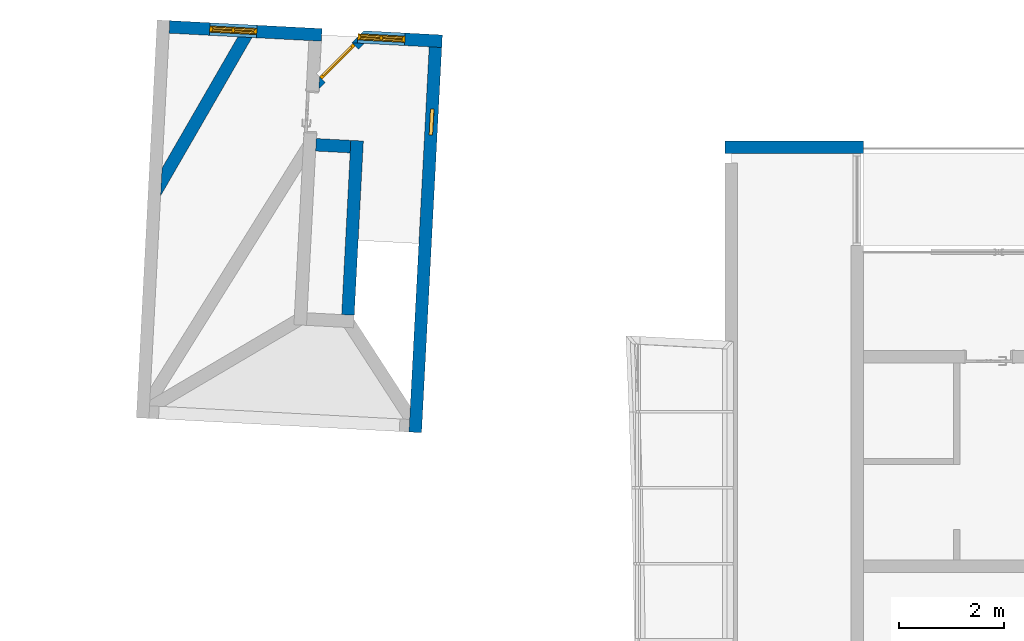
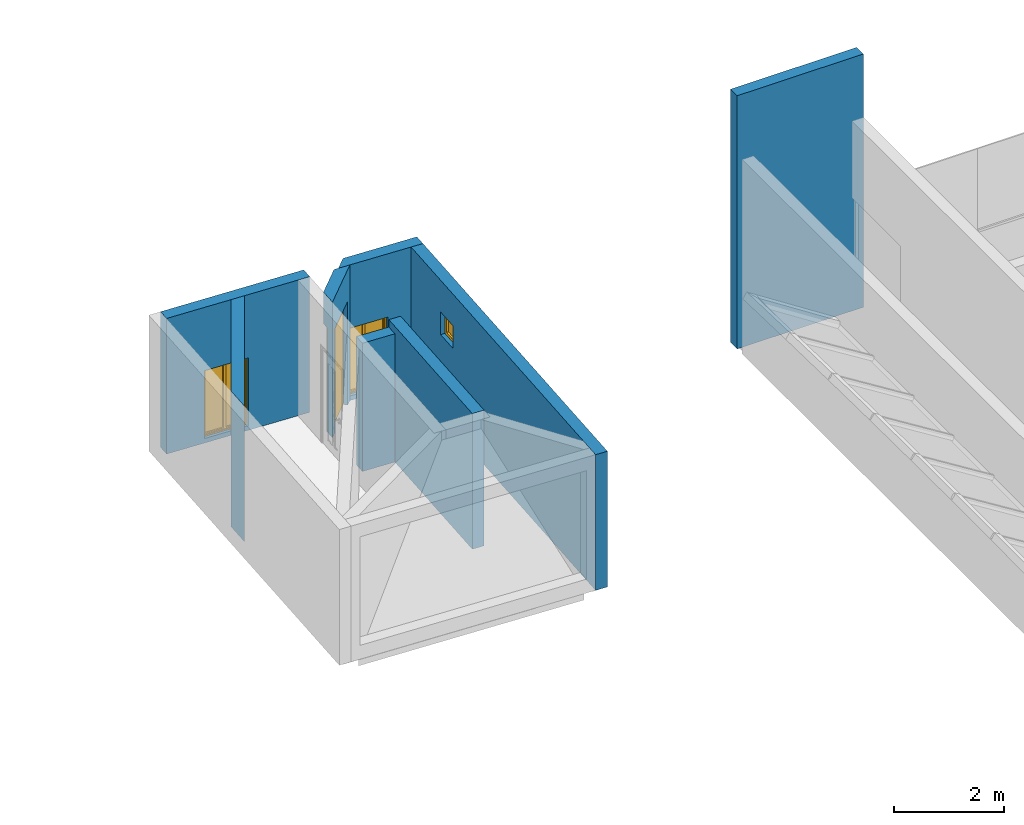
# One storey, part 28 of 33: 8 walls, 4 windows, 7 openings.
"""IFC2X3 building model written with IfcOpenShell, lengths in millimetres."""

from ifc_helpers import new_model, entity, si_unit, converted_unit, derived_unit, direction, frame, frame_2d, origin, place, context, subcontext, project, spatial, polyline, rectangle, outline, extrude, source, transform, mapped, material, material_list, layer, layer_set, layer_usage, type_object, type_shapes, element, fill, save


model = new_model("IFC2X3")

# Units and contexts
model_context = context("Model", 3, precision=0.01, world=origin(), true_north=direction((6.12303176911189e-17, 1.0)))
body_context = subcontext(model_context, "Body", "Model", "MODEL_VIEW")
ifc_project = project(units=[si_unit("LENGTHUNIT", "METRE", prefix="MILLI"), si_unit("AREAUNIT", "SQUARE_METRE"), si_unit("VOLUMEUNIT", "CUBIC_METRE"), converted_unit("PLANEANGLEUNIT", "DEGREE", entity("IfcRatioMeasure", 0.0174532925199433), si_unit("PLANEANGLEUNIT", "RADIAN"), dimensions=[0, 0, 0, 0, 0, 0, 0]), si_unit("MASSUNIT", "GRAM", prefix="KILO"), derived_unit("MASSDENSITYUNIT", [(si_unit("MASSUNIT", "GRAM", prefix="KILO"), 1), (si_unit("LENGTHUNIT", "METRE"), -3)]), si_unit("TIMEUNIT", "SECOND"), si_unit("FREQUENCYUNIT", "HERTZ"), si_unit("THERMODYNAMICTEMPERATUREUNIT", "DEGREE_CELSIUS"), derived_unit("THERMALTRANSMITTANCEUNIT", [(si_unit("MASSUNIT", "GRAM", prefix="KILO"), 1), (si_unit("THERMODYNAMICTEMPERATUREUNIT", "KELVIN"), -1), (si_unit("TIMEUNIT", "SECOND"), -3)]), derived_unit("VOLUMETRICFLOWRATEUNIT", [(si_unit("LENGTHUNIT", "METRE"), 3), (si_unit("TIMEUNIT", "SECOND"), -1)]), si_unit("ELECTRICCURRENTUNIT", "AMPERE"), si_unit("ELECTRICVOLTAGEUNIT", "VOLT"), si_unit("POWERUNIT", "WATT"), si_unit("FORCEUNIT", "NEWTON", prefix="KILO"), si_unit("ILLUMINANCEUNIT", "LUX"), si_unit("LUMINOUSFLUXUNIT", "LUMEN"), si_unit("LUMINOUSINTENSITYUNIT", "CANDELA"), derived_unit("USERDEFINED", [(si_unit("MASSUNIT", "GRAM", prefix="KILO"), -1), (si_unit("LENGTHUNIT", "METRE"), -2), (si_unit("TIMEUNIT", "SECOND"), 3), (si_unit("LUMINOUSFLUXUNIT", "LUMEN"), 1)]), derived_unit("LINEARVELOCITYUNIT", [(si_unit("LENGTHUNIT", "METRE"), 1), (si_unit("TIMEUNIT", "SECOND"), -1)]), si_unit("PRESSUREUNIT", "PASCAL"), derived_unit("USERDEFINED", [(si_unit("LENGTHUNIT", "METRE"), -2), (si_unit("MASSUNIT", "GRAM", prefix="KILO"), 1), (si_unit("TIMEUNIT", "SECOND"), -2)])], contexts=[model_context])

# Site, building, storey
site_placement = place(None, origin())
site = spatial("IfcSite", under=ifc_project, at=site_placement, Name="表面", CompositionType="ELEMENT")
building_placement = place(site_placement, origin())
building = spatial("IfcBuilding", under=site, at=building_placement, CompositionType="ELEMENT")
storey_placement = place(building_placement, frame((0.0, 0.0, 6000.0)))
storey = spatial("IfcBuildingStorey", under=building, at=storey_placement, Name="3F", CompositionType="ELEMENT", Elevation=6000.00000000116)

# Wall, openings, window
ifc_material_1 = material(Name="白色涂料")
ifc_layer_1 = layer(ifc_material_1, 10.0)
ifc_material_2 = material(Name="默认墙")
ifc_layer_2 = layer(ifc_material_2, 220.0)
ifc_layer_3 = layer(ifc_material_1, 10.0)
ifc_layer_set = layer_set([ifc_layer_1, ifc_layer_2, ifc_layer_3], Name="基本墙:粉刷墙240")
ifc_layer_usage_1 = layer_usage(ifc_layer_set, "AXIS2", "NEGATIVE", 120.0)
wall_type = type_object("IfcWallType", Name="基本墙:粉刷墙240", PredefinedType="STANDARD", material=ifc_layer_set)
wall_1_placement = place(storey_placement, frame((-25153.9962677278, 7975.13387011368, 0.0), z_axis=(0.0, 0.0, 1.0), x_axis=(0.998629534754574, -0.0523359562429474, 0.0)))
wall_1 = element("IfcWallStandardCase", 1, at=wall_1_placement, inside=storey, type_object=wall_type, material=ifc_layer_usage_1, Name="基本墙:粉刷墙240", ObjectType="基本墙:粉刷墙240", context=body_context, shape_type="SweptSolid", body=[
    extrude(rectangle(XDim=2910.00000000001, YDim=239.999999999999, at=frame_2d((1455.0, -1.20792265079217e-13), x_axis=(-1.0, 0.0))), origin(), (0.0, 0.0, 1.0), 3000.0),
])
opening_1_placement = place(wall_1_placement, origin())
element("IfcOpeningElement", 2, at=opening_1_placement, cuts=wall_1, Name="基本墙:粉刷墙240", ObjectType="Opening", context=body_context, shape_type="SweptSolid", body=[
    extrude(rectangle(XDim=2300.0, YDim=239.999999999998, at=frame_2d((2.67874611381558e-12, 0.0), x_axis=(0.0, 1.0))), frame((2933.23510215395, -820.921302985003, 1150.0), z_axis=(0.669130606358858, 0.743144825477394, 0.0), x_axis=(-0.743144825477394, 0.669130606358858, 0.0)), (0.0, 0.0, 1.0), 900.000000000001),
])
opening_2_placement = place(wall_1_placement, origin())
element("IfcOpeningElement", 3, at=opening_2_placement, cuts=wall_1, Name="基本墙:粉刷墙240", ObjectType="Opening", context=body_context, shape_type="SweptSolid", body=[
    extrude(rectangle(XDim=499.999999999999, YDim=239.999999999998, at=frame_2d((2.67874611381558e-12, 0.0), x_axis=(0.0, 1.0))), frame((2975.85677289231, -513.844093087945, 1164.06631961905), z_axis=(0.669130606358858, 0.743144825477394, 0.0), x_axis=(0.743144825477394, -0.669130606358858, 0.0)), (0.0, 0.0, 1.0), 500.000000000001),
])
opening_3_placement = place(wall_1_placement, frame((1670.0, 120.0, 100.0)))
opening_3 = element("IfcOpeningElement", 4, at=opening_3_placement, cuts=wall_1, Name="C0915:C0915:1", ObjectType="Opening", context=body_context, shape_type="SweptSolid", body=[
    extrude(rectangle(XDim=1500.0, YDim=900.0, at=frame_2d((750.0, 450.000000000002), x_axis=(1.0, 0.0))), frame((0.0, 0.0, 0.0), z_axis=(0.0, -1.0, 0.0), x_axis=(0.0, 0.0, 1.0)), (0.0, 0.0, 1.0), 240.0),
])
ifc_material_3 = material(Name="玻璃")
ifc_material_4 = material(Name="竖梃")
ifc_material_list_1 = material_list([ifc_material_3, ifc_material_4])
ifc_material_list_2 = material_list([ifc_material_3, ifc_material_4])
window_style_1 = type_object("IfcWindowStyle", Name="C0915", ConstructionType="NOTDEFINED", OperationType="NOTDEFINED", ParameterTakesPrecedence=False, Sizeable=False, material=ifc_material_list_2)
shared_shape_1 = source(origin(), body_context, "Body", "SweptSolid", [
    extrude(rectangle(XDim=20.0, YDim=375.0, at=frame_2d((-8.88178419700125e-16, 0.0), x_axis=(1.0, 0.0))), frame((662.5, 120.0, 50.0), z_axis=(0.0, 0.0, 1.0), x_axis=(0.0, -1.0, 0.0)), (0.0, 0.0, 1.0), 1400.0),
    extrude(rectangle(XDim=374.999999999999, YDim=20.0, at=frame_2d((4.2632564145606e-14, 0.0), x_axis=(1.0, 0.0))), frame((237.5, 120.0, 50.0), z_axis=(0.0, 0.0, 1.0), x_axis=(-1.0, 0.0, 0.0)), (0.0, 0.0, 1.0), 1400.0),
    extrude(outline(polyline([(-725.0, -212.5), (725.0, -212.5), (725.0, 212.5), (-725.0, 212.5), (-725.0, -212.5)]), holes=[polyline([(700.0, -187.5), (-700.0, -187.5), (-700.0, 187.5), (700.0, 187.499999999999), (700.0, -187.5)])]), frame((662.5, 80.0, 750.0), z_axis=(0.0, 1.0, 0.0), x_axis=(0.0, 0.0, 1.0)), (0.0, 0.0, 1.0), 80.0),
    extrude(outline(polyline([(-725.0, -212.499999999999), (725.0, -212.499999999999), (725.0, 212.499999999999), (-725.0, 212.5), (-725.0, -212.499999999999)]), holes=[polyline([(700.0, -187.499999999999), (-700.0, -187.499999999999), (-700.0, 187.499999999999), (700.0, 187.499999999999), (700.0, -187.499999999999)])]), frame((237.5, 80.0, 750.0), z_axis=(0.0, 1.0, 0.0), x_axis=(0.0, 0.0, -1.0)), (0.0, 0.0, 1.0), 80.0),
    extrude(outline(polyline([(-750.0, -450.0), (750.0, -450.0), (750.0, 450.0), (-750.0, 450.0), (-750.0, -450.0)]), holes=[polyline([(725.0, -425.0), (-725.0, -425.0), (-725.0, 425.0), (725.0, 425.0), (725.0, -425.0)])]), frame((450.0, 60.0, 750.0), z_axis=(0.0, 1.0, 0.0), x_axis=(0.0, 0.0, -1.0)), (0.0, 0.0, 1.0), 120.0),
])
type_shapes(window_style_1, [shared_shape_1])
window_1_placement = place(opening_3_placement, frame((0.0, 0.0, 0.0), z_axis=(0.0, 0.0, 1.0), x_axis=(-1.0, 0.0, 0.0)))
window_1 = element("IfcWindow", 5, at=window_1_placement, inside=storey, type_object=window_style_1, material=ifc_material_list_1, Name="C0915:C0915", ObjectType="C0915", OverallHeight=1500.0, OverallWidth=899.999999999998, context=body_context, shape_type="MappedRepresentation", body=[
    mapped(shared_shape_1, transform((0.0, 0.0, 0.0), scale=1.0)),
])
fill(opening_3, window_1)

# Walls
ifc_layer_usage_2 = layer_usage(ifc_layer_set, "AXIS2", "NEGATIVE", 120.0)
wall_2_placement = place(storey_placement, frame((-21746.9572121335, 2479.29136203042, 0.0), z_axis=(0.0, 0.0, 1.0), x_axis=(0.0523359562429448, 0.998629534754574, 0.0)))
element("IfcWallStandardCase", 6, at=wall_2_placement, inside=storey, type_object=wall_type, material=ifc_layer_usage_2, Name="基本墙:粉刷墙240", ObjectType="基本墙:粉刷墙240", context=body_context, shape_type="SweptSolid", body=[
    extrude(rectangle(XDim=3330.0, YDim=239.999999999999, at=frame_2d((1665.0, -1.13686837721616e-13), x_axis=(-1.0, 0.0))), origin(), (0.0, 0.0, 1.0), 3000.0),
])
ifc_layer_usage_3 = layer_usage(ifc_layer_set, "AXIS2", "NEGATIVE", 120.0)
wall_3_placement = place(storey_placement, frame((-21698.7943367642, 5691.17248334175, 0.0), z_axis=(0.0, 0.0, 1.0), x_axis=(-0.998629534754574, 0.0523359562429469, 0.0)))
element("IfcWallStandardCase", 7, at=wall_3_placement, inside=storey, type_object=wall_type, material=ifc_layer_usage_3, Name="基本墙:粉刷墙240", ObjectType="基本墙:粉刷墙240", context=body_context, shape_type="SweptSolid", body=[
    extrude(rectangle(XDim=659.999999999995, YDim=239.999999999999, at=frame_2d((329.999999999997, -2.41584530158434e-13), x_axis=(-1.0, 0.0))), origin(), (0.0, 0.0, 1.0), 2836.39062444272),
])
ifc_layer_usage_4 = layer_usage(ifc_layer_set, "AXIS2", "NEGATIVE", 120.0)
wall_4_placement = place(storey_placement, frame((-23682.8337175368, 7832.42245018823, 0.0), z_axis=(0.0, 0.0, 1.0), x_axis=(-0.500000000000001, -0.866025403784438, 0.0)))
element("IfcWallStandardCase", 8, at=wall_4_placement, inside=storey, type_object=wall_type, material=ifc_layer_usage_4, Name="基本墙:粉刷墙240", ObjectType="基本墙:粉刷墙240", context=body_context, shape_type="SweptSolid", body=[
    extrude(outline(polyline([(3017.01143428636, -120.0), (3488.0379556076, 120.0), (0.0, 120.0), (122.286107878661, -120.0), (3017.01143428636, -120.0)])), origin(), (0.0, 0.0, 1.0), 3000.0),
])

# Wall, opening, window
ifc_layer_usage_5 = layer_usage(ifc_layer_set, "AXIS2", "NEGATIVE", 120.0)
wall_5_placement = place(storey_placement, frame((-20077.2522505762, 7588.90830866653, 0.0), z_axis=(0.0, 0.0, 1.0), x_axis=(-0.0523359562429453, -0.998629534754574, 0.0)))
wall_5 = element("IfcWallStandardCase", 9, at=wall_5_placement, inside=storey, type_object=wall_type, material=ifc_layer_usage_5, Name="基本墙:粉刷墙240", ObjectType="基本墙:粉刷墙240", context=body_context, shape_type="SweptSolid", body=[
    extrude(rectangle(XDim=7360.0, YDim=239.999999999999, at=frame_2d((3680.0, -4.2632564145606e-14), x_axis=(-1.0, 0.0))), origin(), (0.0, 0.0, 1.0), 3000.0),
])
opening_4_placement = place(wall_5_placement, frame((1180.0, -120.0, 1800.0)))
opening_4 = element("IfcOpeningElement", 10, at=opening_4_placement, cuts=wall_5, Name="C0615:C0505:1", ObjectType="Opening", context=body_context, shape_type="SweptSolid", body=[
    extrude(rectangle(XDim=499.999999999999, YDim=500.0, at=frame_2d((249.999999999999, 250.0), x_axis=(1.0, 0.0))), frame((0.0, 0.0, 0.0), z_axis=(0.0, 1.0, 0.0), x_axis=(0.0, 0.0, 1.0)), (0.0, 0.0, 1.0), 240.0),
])
ifc_material_list_3 = material_list([ifc_material_4, ifc_material_3])
ifc_material_list_4 = material_list([ifc_material_4, ifc_material_3])
window_style_2 = type_object("IfcWindowStyle", Name="C0505", ConstructionType="NOTDEFINED", OperationType="NOTDEFINED", ParameterTakesPrecedence=False, Sizeable=False, material=ifc_material_list_4)
shared_shape_2 = source(origin(), body_context, "Body", "SweptSolid", [
    extrude(outline(polyline([(-250.0, -250.0), (250.0, -250.0), (250.0, 250.0), (-250.0, 250.0), (-250.0, -250.0)]), holes=[polyline([(190.0, -190.0), (-190.0, -190.0), (-190.0, 190.0), (190.0, 190.0), (190.0, -190.0)])]), frame((250.0, 86.6666666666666, 250.0), z_axis=(0.0, 1.0, 0.0), x_axis=(0.0, 0.0, -1.0)), (0.0, 0.0, 1.0), 66.6666666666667),
    extrude(rectangle(XDim=27.7162458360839, YDim=379.999999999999, at=frame_2d((0.0, -1.4210854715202e-14), x_axis=(1.0, 0.0))), frame((250.0, 142.490721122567, 60.0), z_axis=(0.0, 0.0, 1.0), x_axis=(0.0, 1.0, 0.0)), (0.0, 0.0, 1.0), 379.999999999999),
])
type_shapes(window_style_2, [shared_shape_2])
window_2_placement = place(opening_4_placement, origin())
window_2 = element("IfcWindow", 11, at=window_2_placement, inside=storey, type_object=window_style_2, material=ifc_material_list_3, Name="C0615:C0505", ObjectType="C0505", OverallHeight=499.999999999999, OverallWidth=500.0, context=body_context, shape_type="MappedRepresentation", body=[
    mapped(shared_shape_2, transform((0.0, 0.0, 0.0), scale=1.0)),
])
fill(opening_4, window_2)

# Wall
ifc_layer_usage_6 = layer_usage(ifc_layer_set, "AXIS2", "NEGATIVE", 120.0)
wall_6_placement = place(storey_placement, frame((-14550.2499126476, 5683.13157334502, 0.0)))
element("IfcWallStandardCase", 12, at=wall_6_placement, inside=storey, type_object=wall_type, material=ifc_layer_usage_6, Name="基本墙:粉刷墙240", ObjectType="基本墙:粉刷墙240", context=body_context, shape_type="SweptSolid", body=[
    extrude(rectangle(XDim=2639.99999999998, YDim=240.0, at=frame_2d((1319.99999999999, 3.83693077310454e-13), x_axis=(-1.0, 0.0))), origin(), (0.0, 0.0, 1.0), 5600.0),
])

# Wall, opening, window
ifc_layer_usage_7 = layer_usage(ifc_layer_set, "AXIS2", "NEGATIVE", 120.0)
wall_7_placement = place(storey_placement, frame((-22386.5371594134, 6883.03155160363, 0.0), z_axis=(0.0, 0.0, 1.0), x_axis=(0.707106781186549, 0.707106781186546, 0.0)))
wall_7 = element("IfcWallStandardCase", 13, at=wall_7_placement, inside=storey, type_object=wall_type, material=ifc_layer_usage_7, Name="基本墙:粉刷墙240", ObjectType="基本墙:粉刷墙240", context=body_context, shape_type="SweptSolid", body=[
    extrude(outline(polyline([(0.0, -120.0), (1219.22894857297, -120.0), (1062.73810836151, 53.8006855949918), (1003.13197794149, 120.0), (266.547003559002, 120.0), (0.0, -120.0)])), origin(), (0.0, 0.0, 1.0), 3000.0),
])
opening_5_placement = place(wall_7_placement, frame((1067.99781708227, 120.0, 1.15433635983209e-09)))
opening_5 = element("IfcOpeningElement", 14, at=opening_5_placement, cuts=wall_7, Name="C0615:C0923:1", ObjectType="Opening", context=body_context, shape_type="SweptSolid", body=[
    extrude(rectangle(XDim=2300.0, YDim=900.0, at=frame_2d((1150.0, 450.0), x_axis=(1.0, 0.0))), frame((0.0, 0.0, 0.0), z_axis=(0.0, -1.0, 0.0), x_axis=(0.0, 0.0, 1.0)), (0.0, 0.0, 1.0), 240.0),
])
ifc_material_list_5 = material_list([ifc_material_4, ifc_material_3])
ifc_material_list_6 = material_list([ifc_material_4, ifc_material_3])
window_style_3 = type_object("IfcWindowStyle", Name="C0923", ConstructionType="NOTDEFINED", OperationType="NOTDEFINED", ParameterTakesPrecedence=False, Sizeable=False, material=ifc_material_list_6)
shared_shape_3 = source(origin(), body_context, "Body", "SweptSolid", [
    extrude(outline(polyline([(-1150.0, -450.0), (1150.0, -450.0), (1150.0, 450.0), (-1150.0, 450.0), (-1150.0, -450.0)]), holes=[polyline([(1090.0, -390.0), (-1090.0, -390.0), (-1090.0, 390.0), (1090.0, 390.0), (1090.0, -390.0)])]), frame((450.0, 86.6666666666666, 1150.0), z_axis=(0.0, 1.0, 0.0), x_axis=(0.0, 0.0, -1.0)), (0.0, 0.0, 1.0), 66.6666666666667),
    extrude(rectangle(XDim=27.7162458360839, YDim=779.999999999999, at=frame_2d((0.0, 2.8421709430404e-14), x_axis=(1.0, 0.0))), frame((450.0, 142.490721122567, 60.0), z_axis=(0.0, 0.0, 1.0), x_axis=(0.0, 1.0, 0.0)), (0.0, 0.0, 1.0), 2180.0),
])
type_shapes(window_style_3, [shared_shape_3])
window_3_placement = place(opening_5_placement, frame((0.0, 0.0, -1.15414877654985e-09), z_axis=(0.0, 0.0, 1.0), x_axis=(-1.0, 0.0, 0.0)))
window_3 = element("IfcWindow", 15, at=window_3_placement, inside=storey, type_object=window_style_3, material=ifc_material_list_5, Name="C0615:C0923", ObjectType="C0923", OverallHeight=2300.0, OverallWidth=900.0, context=body_context, shape_type="MappedRepresentation", body=[
    mapped(shared_shape_3, transform((0.0, 0.0, 0.0), scale=1.0)),
])
fill(opening_5, window_3)

# Wall, openings, window
ifc_layer_usage_8 = layer_usage(ifc_layer_set, "AXIS2", "NEGATIVE", 120.0)
wall_8_placement = place(storey_placement, frame((-21666.8303512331, 7792.37924843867, 0.0), z_axis=(0.0, 0.0, 1.0), x_axis=(0.998629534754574, -0.0523359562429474, 0.0)))
wall_8 = element("IfcWallStandardCase", 16, at=wall_8_placement, inside=storey, type_object=wall_type, material=ifc_layer_usage_8, Name="基本墙:粉刷墙240", ObjectType="基本墙:粉刷墙240", context=body_context, shape_type="SweptSolid", body=[
    extrude(outline(polyline([(216.096970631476, 120.0), (3.51943208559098, -116.091274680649), (7.86051134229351, -120.0), (233.871890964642, -120.0), (1478.04848531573, -120.0), (1718.04848531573, -120.0), (1718.04848531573, 120.0), (216.096970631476, 120.0)])), origin(), (0.0, 0.0, 1.0), 3000.0),
])
opening_6_placement = place(wall_8_placement, origin())
element("IfcOpeningElement", 17, at=opening_6_placement, cuts=wall_8, Name="基本墙:粉刷墙240", ObjectType="Opening", context=body_context, shape_type="SweptSolid", body=[
    extrude(rectangle(XDim=2300.0, YDim=239.999999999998, at=frame_2d((2.67874611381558e-12, 0.0), x_axis=(0.0, 1.0))), frame((-558.716412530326, -820.921302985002, 1150.0), z_axis=(0.669130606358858, 0.743144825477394, 0.0), x_axis=(-0.743144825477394, 0.669130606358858, 0.0)), (0.0, 0.0, 1.0), 900.000000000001),
])
opening_7_placement = place(wall_8_placement, frame((108.048485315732, -120.0, 100.0)))
opening_7 = element("IfcOpeningElement", 18, at=opening_7_placement, cuts=wall_8, Name="C0915:C0915:1", ObjectType="Opening", context=body_context, shape_type="SweptSolid", body=[
    extrude(rectangle(XDim=1500.0, YDim=900.0, at=frame_2d((750.0, 450.0), x_axis=(1.0, 0.0))), frame((0.0, 0.0, 0.0), z_axis=(0.0, 1.0, 0.0), x_axis=(0.0, 0.0, 1.0)), (0.0, 0.0, 1.0), 240.0),
])
ifc_material_list_7 = material_list([ifc_material_3, ifc_material_4])
ifc_material_list_8 = material_list([ifc_material_3, ifc_material_4])
window_style_4 = type_object("IfcWindowStyle", Name="C0915", ConstructionType="NOTDEFINED", OperationType="NOTDEFINED", ParameterTakesPrecedence=False, Sizeable=False, material=ifc_material_list_8)
shared_shape_4 = source(origin(), body_context, "Body", "SweptSolid", [
    extrude(rectangle(XDim=20.0, YDim=375.0, at=frame_2d((-8.88178419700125e-16, 0.0), x_axis=(1.0, 0.0))), frame((662.5, 120.0, 50.0), z_axis=(0.0, 0.0, 1.0), x_axis=(0.0, -1.0, 0.0)), (0.0, 0.0, 1.0), 1400.0),
    extrude(rectangle(XDim=374.999999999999, YDim=20.0, at=frame_2d((4.2632564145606e-14, 0.0), x_axis=(1.0, 0.0))), frame((237.5, 120.0, 50.0), z_axis=(0.0, 0.0, 1.0), x_axis=(-1.0, 0.0, 0.0)), (0.0, 0.0, 1.0), 1400.0),
    extrude(outline(polyline([(-725.0, -212.5), (725.0, -212.5), (725.0, 212.5), (-725.0, 212.5), (-725.0, -212.5)]), holes=[polyline([(700.0, -187.5), (-700.0, -187.5), (-700.0, 187.5), (700.0, 187.499999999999), (700.0, -187.5)])]), frame((662.5, 80.0, 750.0), z_axis=(0.0, 1.0, 0.0), x_axis=(0.0, 0.0, 1.0)), (0.0, 0.0, 1.0), 80.0),
    extrude(outline(polyline([(-725.0, -212.499999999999), (725.0, -212.499999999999), (725.0, 212.499999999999), (-725.0, 212.5), (-725.0, -212.499999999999)]), holes=[polyline([(700.0, -187.499999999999), (-700.0, -187.499999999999), (-700.0, 187.499999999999), (700.0, 187.499999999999), (700.0, -187.499999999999)])]), frame((237.5, 80.0, 750.0), z_axis=(0.0, 1.0, 0.0), x_axis=(0.0, 0.0, -1.0)), (0.0, 0.0, 1.0), 80.0),
    extrude(outline(polyline([(-750.0, -450.0), (750.0, -450.0), (750.0, 450.0), (-750.0, 450.0), (-750.0, -450.0)]), holes=[polyline([(725.0, -425.0), (-725.0, -425.0), (-725.0, 425.0), (725.0, 425.0), (725.0, -425.0)])]), frame((450.0, 60.0, 750.0), z_axis=(0.0, 1.0, 0.0), x_axis=(0.0, 0.0, -1.0)), (0.0, 0.0, 1.0), 120.0),
])
type_shapes(window_style_4, [shared_shape_4])
window_4_placement = place(opening_7_placement, origin())
window_4 = element("IfcWindow", 19, at=window_4_placement, inside=storey, type_object=window_style_4, material=ifc_material_list_7, Name="C0915:C0915", ObjectType="C0915", OverallHeight=1500.0, OverallWidth=899.999999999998, context=body_context, shape_type="MappedRepresentation", body=[
    mapped(shared_shape_4, transform((0.0, 0.0, 0.0), scale=1.0)),
])
fill(opening_7, window_4)

save(model, "model.ifc")
